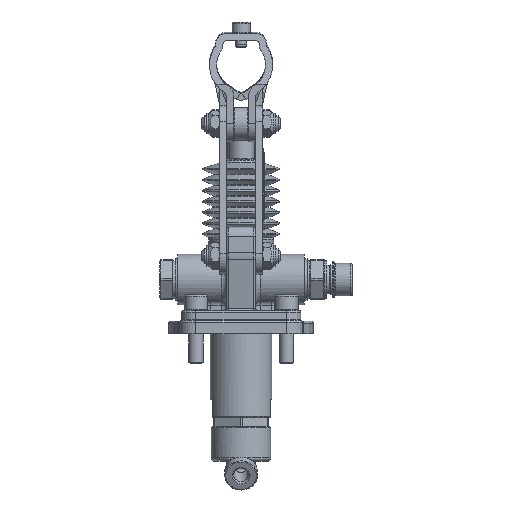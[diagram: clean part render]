
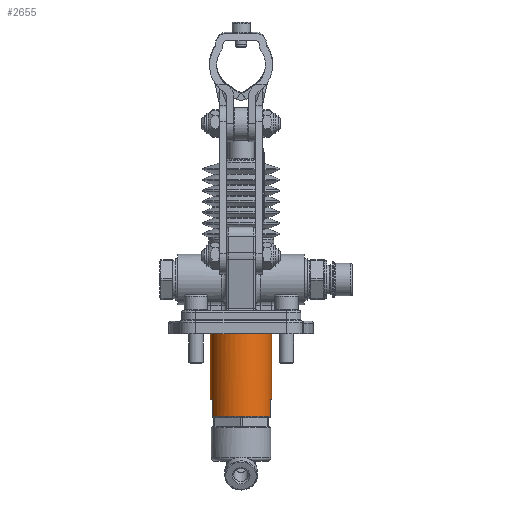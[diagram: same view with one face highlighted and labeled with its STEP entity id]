
A CAD part, left-side view. The second image highlights one B-rep face of the part: STEP entity #2655.
In plain terms, the highlighted cylindrical face has radius 17 mm (diameter 34 mm), a full revolution.
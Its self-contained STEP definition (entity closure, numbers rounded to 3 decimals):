
#2304=CARTESIAN_POINT('',(64.745,50.0,-37.5));
#2305=VERTEX_POINT('',#2304);
#2306=CARTESIAN_POINT('',(53.255,50.0,-37.5));
#2307=VERTEX_POINT('',#2306);
#2308=CARTESIAN_POINT('',(59.,34.0,-37.5));
#2309=DIRECTION('',(0.0,0.0,1.0));
#2310=DIRECTION('',(-1.0,0.0,0.0));
#2311=AXIS2_PLACEMENT_3D('',#2308,#2309,#2310);
#2312=CIRCLE('',#2311,17.0);
#2313=EDGE_CURVE('',#2305,#2307,#2312,.T.);
#2329=CARTESIAN_POINT('',(53.255,50.0,-46.5));
#2330=VERTEX_POINT('',#2329);
#2344=CARTESIAN_POINT('',(53.255,50.0,-37.5));
#2345=DIRECTION('',(0.0,0.0,-1.0));
#2346=VECTOR('',#2345,9.0);
#2347=LINE('',#2344,#2346);
#2348=EDGE_CURVE('',#2307,#2330,#2347,.T.);
#2351=CARTESIAN_POINT('',(64.745,50.0,-46.5));
#2352=VERTEX_POINT('',#2351);
#2353=CARTESIAN_POINT('',(64.745,50.0,-46.5));
#2354=DIRECTION('',(0.0,0.0,1.0));
#2355=VECTOR('',#2354,9.0);
#2356=LINE('',#2353,#2355);
#2357=EDGE_CURVE('',#2352,#2305,#2356,.T.);
#2381=CARTESIAN_POINT('',(64.745,18.,-37.5));
#2382=VERTEX_POINT('',#2381);
#2383=CARTESIAN_POINT('',(64.745,18.,-46.5));
#2384=VERTEX_POINT('',#2383);
#2385=CARTESIAN_POINT('',(64.745,18.,-37.5));
#2386=DIRECTION('',(0.0,0.0,-1.0));
#2387=VECTOR('',#2386,9.0);
#2388=LINE('',#2385,#2387);
#2389=EDGE_CURVE('',#2382,#2384,#2388,.T.);
#2391=CARTESIAN_POINT('',(53.255,18.,-37.5));
#2392=VERTEX_POINT('',#2391);
#2399=CARTESIAN_POINT('',(53.255,18.,-46.5));
#2400=VERTEX_POINT('',#2399);
#2401=CARTESIAN_POINT('',(53.255,18.,-46.5));
#2402=DIRECTION('',(0.0,0.0,1.0));
#2403=VECTOR('',#2402,9.0);
#2404=LINE('',#2401,#2403);
#2405=EDGE_CURVE('',#2400,#2392,#2404,.T.);
#2442=CARTESIAN_POINT('',(59.,34.0,-37.5));
#2443=DIRECTION('',(0.0,0.0,1.0));
#2444=DIRECTION('',(-1.0,0.0,0.0));
#2445=AXIS2_PLACEMENT_3D('',#2442,#2443,#2444);
#2446=CIRCLE('',#2445,17.0);
#2447=EDGE_CURVE('',#2392,#2382,#2446,.T.);
#2459=CARTESIAN_POINT('',(59.,34.0,-46.5));
#2460=DIRECTION('',(0.0,0.0,-1.0));
#2461=DIRECTION('',(-1.0,0.0,0.0));
#2462=AXIS2_PLACEMENT_3D('',#2459,#2460,#2461);
#2463=CIRCLE('',#2462,17.0);
#2464=EDGE_CURVE('',#2352,#2384,#2463,.T.);
#2619=CARTESIAN_POINT('',(59.,34.0,-46.5));
#2620=DIRECTION('',(0.0,0.0,-1.0));
#2621=DIRECTION('',(-1.0,0.0,0.0));
#2622=AXIS2_PLACEMENT_3D('',#2619,#2620,#2621);
#2623=CIRCLE('',#2622,17.0);
#2624=EDGE_CURVE('',#2400,#2330,#2623,.T.);
#2629=CARTESIAN_POINT('',(59.,34.0,-47.5));
#2630=DIRECTION('',(0.,0.0,1.0));
#2631=DIRECTION('',(-1.0,0.0,0.0));
#2632=AXIS2_PLACEMENT_3D('',#2629,#2630,#2631);
#2633=CYLINDRICAL_SURFACE('',#2632,17.0);
#2634=CARTESIAN_POINT('',(76.,34.0,1.25));
#2635=VERTEX_POINT('',#2634);
#2636=CARTESIAN_POINT('',(59.,34.0,1.25));
#2637=DIRECTION('',(0.0,0.0,-1.0));
#2638=DIRECTION('',(-1.0,0.0,0.0));
#2639=AXIS2_PLACEMENT_3D('',#2636,#2637,#2638);
#2640=CIRCLE('',#2639,17.0);
#2641=EDGE_CURVE('',#2635,#2635,#2640,.T.);
#2642=ORIENTED_EDGE('',*,*,#2641,.T.);
#2643=EDGE_LOOP('',(#2642));
#2644=FACE_OUTER_BOUND('',#2643,.T.);
#2645=ORIENTED_EDGE('',*,*,#2348,.T.);
#2646=ORIENTED_EDGE('',*,*,#2624,.F.);
#2647=ORIENTED_EDGE('',*,*,#2405,.T.);
#2648=ORIENTED_EDGE('',*,*,#2447,.T.);
#2649=ORIENTED_EDGE('',*,*,#2389,.T.);
#2650=ORIENTED_EDGE('',*,*,#2464,.F.);
#2651=ORIENTED_EDGE('',*,*,#2357,.T.);
#2652=ORIENTED_EDGE('',*,*,#2313,.T.);
#2653=EDGE_LOOP('',(#2645,#2646,#2647,#2648,#2649,#2650,#2651,#2652));
#2654=FACE_BOUND('',#2653,.T.);
#2655=ADVANCED_FACE('',(#2644,#2654),#2633,.T.);
